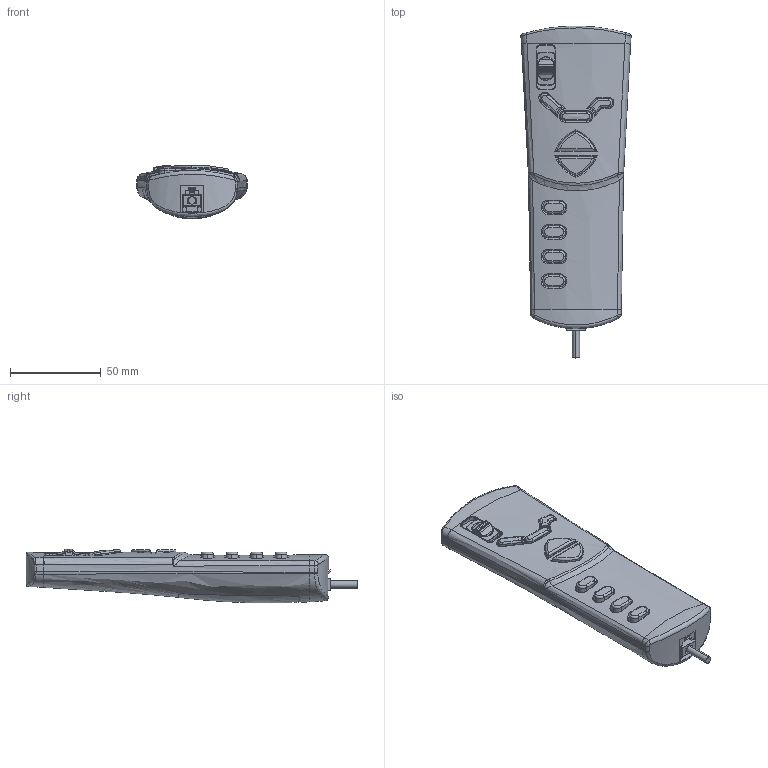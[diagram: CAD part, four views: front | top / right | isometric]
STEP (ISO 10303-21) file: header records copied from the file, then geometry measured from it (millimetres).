
FILE_DESCRIPTION (( 'STEP AP203' ), '1' );
FILE_NAME ('TH8.STEP', '2014-01-16T03:04:47', ( 'stanley' ), ( '' ), 'SwSTEP 2.0', 'SolidWorks 2010', '' );
FILE_SCHEMA (( 'CONFIG_CONTROL_DESIGN' ));
Length unit declared in the file: millimetre
Products named in the file (1): TH8
Bounding box: 60.6 x 182.47 x 29.62 mm (x, y, z)
Volume: 172489.3 mm3; surface area: 27126.1 mm2
Topology: 1 solids, 1 shells, 434 faces, 1052 edges, 645 vertices
Faces by surface type: bspline 180, plane 128, cylinder 108, torus 16, cone 2
Entity records: 35341 total; most frequent: CARTESIAN_POINT 26368, ORIENTED_EDGE 2100, DIRECTION 1396, EDGE_CURVE 1050, VERTEX_POINT 645, AXIS2_PLACEMENT_3D 521, EDGE_LOOP 461, FACE_OUTER_BOUND 434
